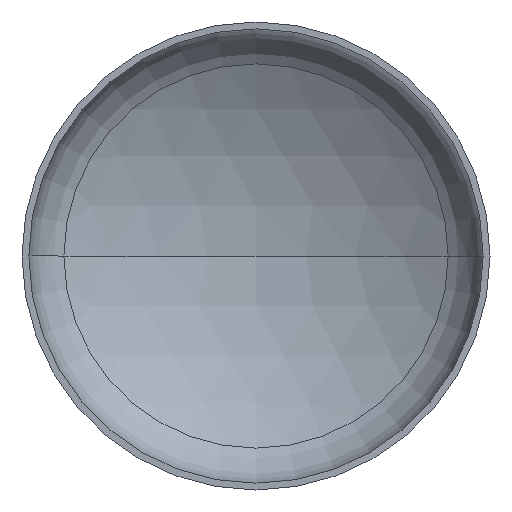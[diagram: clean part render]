
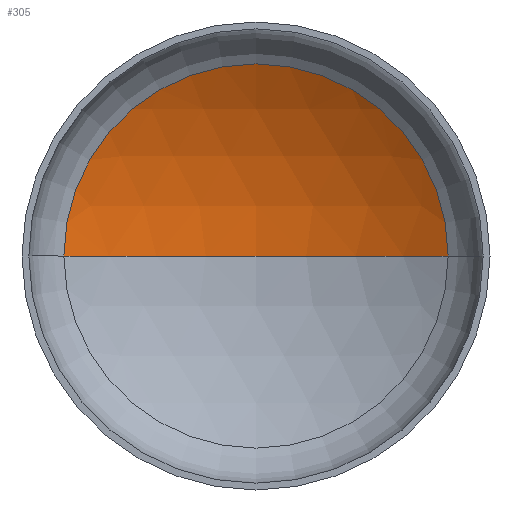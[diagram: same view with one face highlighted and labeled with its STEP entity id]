
A CAD part, front view. The second image highlights one B-rep face of the part: STEP entity #305.
In plain terms, the highlighted spherical face has radius 2080 mm.
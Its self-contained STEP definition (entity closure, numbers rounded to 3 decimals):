
#6 = ORIENTED_EDGE ( 'NONE', *, *, #150, .T. ) ;
#12 = EDGE_LOOP ( 'NONE', ( #62, #48, #6 ) ) ;
#16 = AXIS2_PLACEMENT_3D ( 'NONE', #186, #399, #125 ) ;
#24 = VERTEX_POINT ( 'NONE', #277 ) ;
#28 = VERTEX_POINT ( 'NONE', #302 ) ;
#43 = VERTEX_POINT ( 'NONE', #253 ) ;
#48 = ORIENTED_EDGE ( 'NONE', *, *, #151, .T. ) ;
#51 = AXIS2_PLACEMENT_3D ( 'NONE', #225, #272, #264 ) ;
#52 = AXIS2_PLACEMENT_3D ( 'NONE', #198, #209, #210 ) ;
#58 = AXIS2_PLACEMENT_3D ( 'NONE', #287, #236, #378 ) ;
#62 = ORIENTED_EDGE ( 'NONE', *, *, #153, .F. ) ;
#68 = CIRCLE ( 'NONE', #58, 1067.238 ) ;
#125 = DIRECTION ( 'NONE',  ( -1., 0., 0. ) ) ;
#150 = EDGE_CURVE ( 'NONE', #43, #24, #68, .T. ) ;
#151 = EDGE_CURVE ( 'NONE', #28, #43, #318, .T. ) ;
#153 = EDGE_CURVE ( 'NONE', #28, #24, #312, .T. ) ;
#186 = CARTESIAN_POINT ( 'NONE',  ( 0., -1321.997, 0. ) ) ;
#198 = CARTESIAN_POINT ( 'NONE',  ( 0., -1321.997, 0. ) ) ;
#209 = DIRECTION ( 'NONE',  ( 0., 0., -1. ) ) ;
#210 = DIRECTION ( 'NONE',  ( -1., 0., 0. ) ) ;
#225 = CARTESIAN_POINT ( 'NONE',  ( 0., -1321.997, 0. ) ) ;
#236 = DIRECTION ( 'NONE',  ( 0., -1., 0. ) ) ;
#253 = CARTESIAN_POINT ( 'NONE',  ( 1067.238, 463.333, 0. ) ) ;
#264 = DIRECTION ( 'NONE',  ( 1., 0., 0. ) ) ;
#272 = DIRECTION ( 'NONE',  ( 0., 0., 1. ) ) ;
#277 = CARTESIAN_POINT ( 'NONE',  ( -1067.238, 463.333, 0. ) ) ;
#287 = CARTESIAN_POINT ( 'NONE',  ( 0., 463.333, 0. ) ) ;
#293 = FACE_OUTER_BOUND ( 'NONE', #12, .T. ) ;
#299 = SPHERICAL_SURFACE ( 'NONE', #16, 2080. ) ;
#302 = CARTESIAN_POINT ( 'NONE',  ( 0., 758.003, 0. ) ) ;
#305 = ADVANCED_FACE ( 'NONE', ( #293 ), #299, .F. ) ;
#312 = CIRCLE ( 'NONE', #51, 2080. ) ;
#318 = CIRCLE ( 'NONE', #52, 2080. ) ;
#378 = DIRECTION ( 'NONE',  ( 1., 0., 0. ) ) ;
#399 = DIRECTION ( 'NONE',  ( 0., 0., -1. ) ) ;
